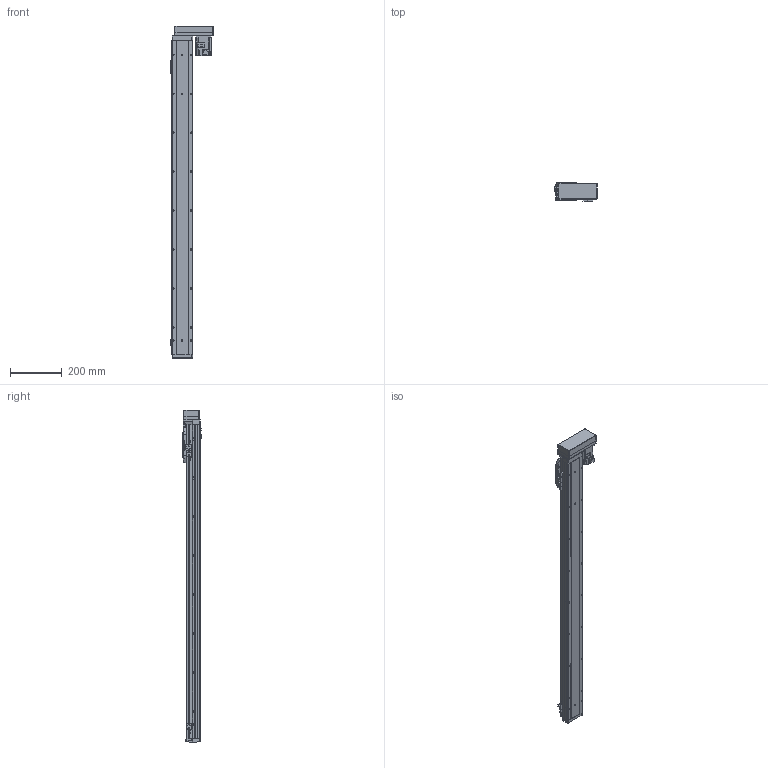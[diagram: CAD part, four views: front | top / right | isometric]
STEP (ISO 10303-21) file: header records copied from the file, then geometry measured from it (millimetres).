
FILE_DESCRIPTION (( 'STEP AP214' ), '1' );
FILE_NAME ('GSH8-1050-BL-M20-1.step', '2025-01-07T06:05:01', ( '' ), ( '' ), 'SwSTEP 2.0', 'SolidWorks 2012', '' );
FILE_SCHEMA (( 'AUTOMOTIVE_DESIGN' ));
Length unit declared in the file: millimetre
Products named in the file (5): GSH8-BL-011-1050-M20; GSH8-1050-BL-M20-1; HG-KR23_200W_Motor; GSH8-BL-008; GSH8-GY-004
Assembly tree (4 placements, depth 2):
  GSH8-1050-BL-M20-1
    GSH8-BL-011-1050-M20
    GSH8-GY-004
    GSH8-BL-008
    HG-KR23_200W_Motor
Bounding box: 163 x 71.3 x 1278.2 mm (x, y, z)
Volume: 2758318.7 mm3; surface area: 733443.6 mm2
Topology: 4 solids, 8 shells, 1178 faces, 3107 edges, 2002 vertices
Faces by surface type: plane 660, cylinder 422, torus 42, cone 26, bspline 24, sphere 4
Entity records: 46517 total; most frequent: CARTESIAN_POINT 10888, DIRECTION 6311, ORIENTED_EDGE 6198, EDGE_CURVE 3099, AXIS2_PLACEMENT_3D 2129, LINE 2053, VECTOR 2053, VERTEX_POINT 1998
